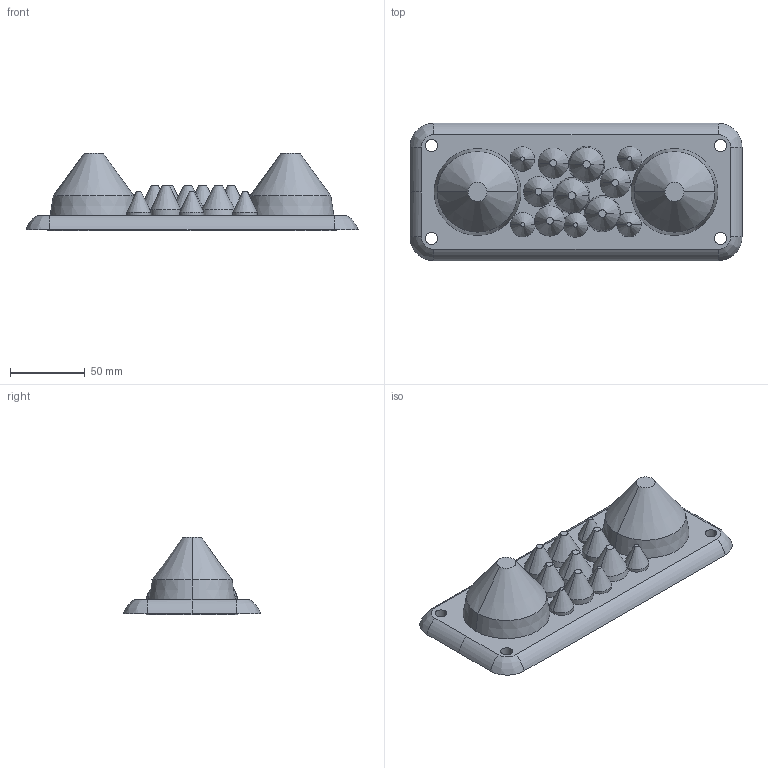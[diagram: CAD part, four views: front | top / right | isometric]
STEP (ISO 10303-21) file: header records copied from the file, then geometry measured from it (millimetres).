
FILE_DESCRIPTION (( 'STEP AP203' ), '1' );
FILE_NAME ('104338.STEP', '2012-12-11T13:41:11', ( 'Joni' ), ( 'Hewlett-Packard Company' ), 'SwSTEP 2.0', 'SolidWorks 2012', '' );
FILE_SCHEMA (( 'CONFIG_CONTROL_DESIGN' ));
Length unit declared in the file: millimetre
Products named in the file (1): 104338
Bounding box: 221.74 x 91.74 x 51.5 mm (x, y, z)
Volume: 295103.1 mm3; surface area: 77633.3 mm2
Topology: 1 solids, 15 shells, 236 faces, 495 edges, 312 vertices
Faces by surface type: cylinder 96, plane 62, cone 38, torus 32, bspline 8
Entity records: 6632 total; most frequent: CARTESIAN_POINT 1277, DIRECTION 1255, ORIENTED_EDGE 990, AXIS2_PLACEMENT_3D 553, EDGE_CURVE 495, CIRCLE 324, VERTEX_POINT 312, EDGE_LOOP 267
